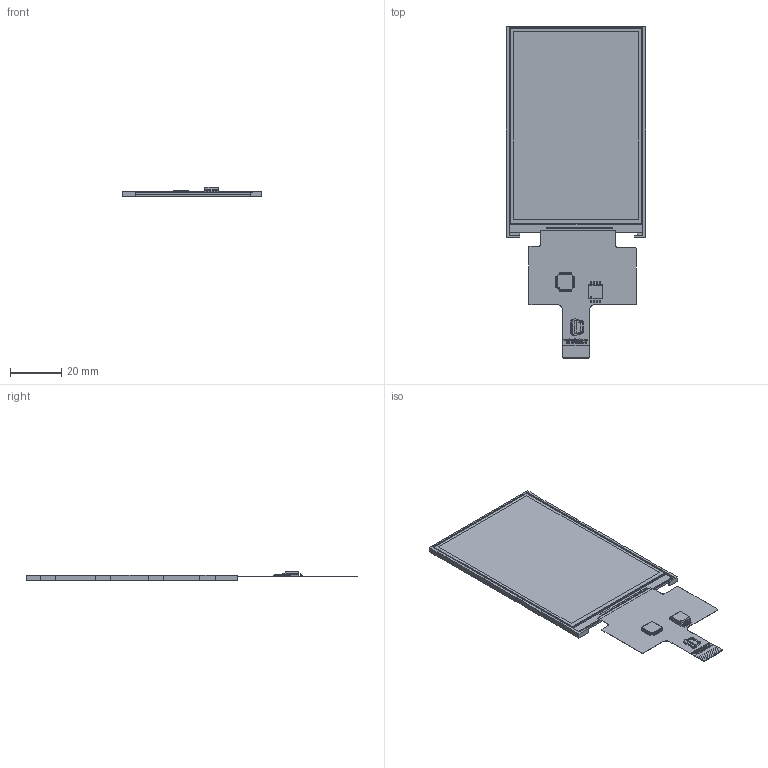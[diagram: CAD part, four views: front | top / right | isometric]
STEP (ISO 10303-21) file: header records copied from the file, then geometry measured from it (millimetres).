
FILE_DESCRIPTION (( 'STEP AP214' ), '1' );
FILE_NAME ('ER-TFTS035-6.STEP', '2024-06-13T01:03:02', ( '微软用户' ), ( '微软中国' ), 'SwSTEP 2.0', 'SolidWorks 2023', '' );
FILE_SCHEMA (( 'AUTOMOTIVE_DESIGN' ));
Length unit declared in the file: millimetre
Products named in the file (1): ER-TFTS035-6
Bounding box: 54.56 x 129.99 x 3.58 mm (x, y, z)
Volume: 9550 mm3; surface area: 21478.1 mm2
Topology: 47 solids, 47 shells, 1537 faces, 4136 edges, 2764 vertices
Faces by surface type: plane 1083, cylinder 324, bspline 128, cone 2
Entity records: 57209 total; most frequent: CARTESIAN_POINT 17318, ORIENTED_EDGE 8272, DIRECTION 7352, EDGE_CURVE 4136, VECTOR 3228, LINE 3228, VERTEX_POINT 2764, AXIS2_PLACEMENT_3D 2062
